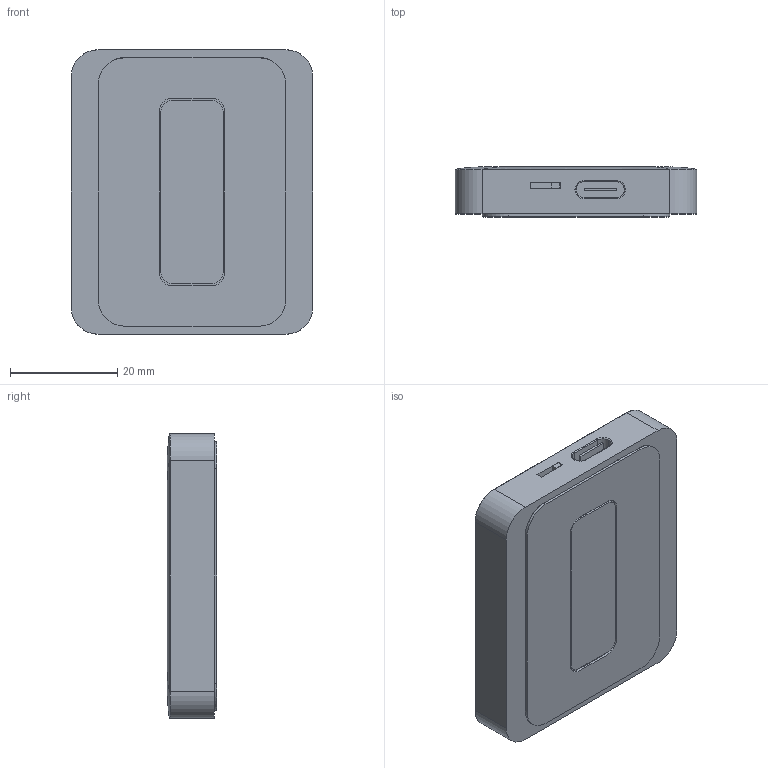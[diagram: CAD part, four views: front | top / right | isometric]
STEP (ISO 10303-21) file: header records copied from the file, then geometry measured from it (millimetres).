
FILE_DESCRIPTION (( 'STEP AP214' ), '1' );
FILE_NAME ('51573.STEP', '2025-02-03T14:40:01', ( '' ), ( '' ), 'SwSTEP 2.0', 'SolidWorks 2023', '' );
FILE_SCHEMA (( 'AUTOMOTIVE_DESIGN' ));
Length unit declared in the file: millimetre
Products named in the file (3): 51573; Plate RF battery; RF- battery body_TOUCH
Assembly tree (2 placements, depth 2):
  51573
    RF- battery body_TOUCH
    Plate RF battery
Bounding box: 45 x 9.25 x 53 mm (x, y, z)
Volume: 21115 mm3; surface area: 9382.9 mm2
Topology: 2 solids, 2 shells, 586 faces, 1531 edges, 1014 vertices
Faces by surface type: plane 368, bspline 125, cylinder 82, torus 7, cone 4
Entity records: 23592 total; most frequent: CARTESIAN_POINT 9761, ORIENTED_EDGE 3062, DIRECTION 2394, EDGE_CURVE 1531, LINE 1100, VECTOR 1100, VERTEX_POINT 1014, EDGE_LOOP 653
